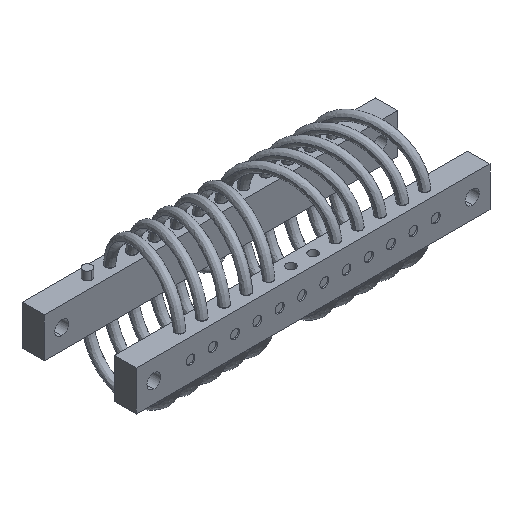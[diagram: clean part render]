
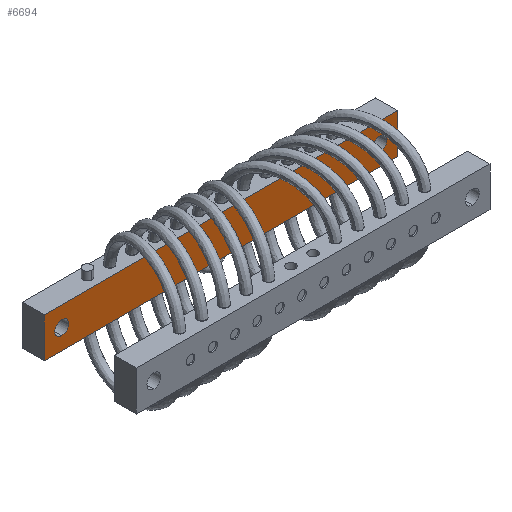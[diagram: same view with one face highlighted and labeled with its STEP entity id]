
A CAD part, isometric view. The second image highlights one B-rep face of the part: STEP entity #6694.
In plain terms, the highlighted planar face has unit normal (0, -1, 0).
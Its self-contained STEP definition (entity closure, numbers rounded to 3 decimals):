
#29 = DIRECTION ( 'NONE',  ( -1., 0., 0. ) ) ;
#92 = FACE_BOUND ( 'NONE', #20584, .T. ) ;
#379 = PLANE ( 'NONE',  #8672 ) ;
#444 = EDGE_CURVE ( 'NONE', #18787, #1543, #14312, .T. ) ;
#927 = CARTESIAN_POINT ( 'NONE',  ( -57.15, 12.6, 0. ) ) ;
#991 = DIRECTION ( 'NONE',  ( 0., 1., 0. ) ) ;
#1048 = DIRECTION ( 'NONE',  ( 0., 0., 1. ) ) ;
#1218 = DIRECTION ( 'NONE',  ( 0., 1., 0. ) ) ;
#1247 = EDGE_CURVE ( 'NONE', #2029, #4068, #7236, .T. ) ;
#1266 = VERTEX_POINT ( 'NONE', #15204 ) ;
#1348 = VERTEX_POINT ( 'NONE', #2498 ) ;
#1543 = VERTEX_POINT ( 'NONE', #19936 ) ;
#1568 = CARTESIAN_POINT ( 'NONE',  ( 57.15, 12.6, -2.5 ) ) ;
#1583 = CARTESIAN_POINT ( 'NONE',  ( 63.5, 12.6, 7.15 ) ) ;
#1640 = LINE ( 'NONE', #17075, #18252 ) ;
#1960 = CARTESIAN_POINT ( 'NONE',  ( 63.5, 12.6, -7.15 ) ) ;
#2006 = DIRECTION ( 'NONE',  ( 0., 0., 1. ) ) ;
#2029 = VERTEX_POINT ( 'NONE', #18634 ) ;
#2398 = VECTOR ( 'NONE', #2511, 1000. ) ;
#2498 = CARTESIAN_POINT ( 'NONE',  ( -63.5, 12.6, -7.15 ) ) ;
#2511 = DIRECTION ( 'NONE',  ( 0., 0., -1. ) ) ;
#2828 = AXIS2_PLACEMENT_3D ( 'NONE', #18467, #8826, #20098 ) ;
#3306 = ORIENTED_EDGE ( 'NONE', *, *, #444, .T. ) ;
#3382 = LINE ( 'NONE', #1960, #15705 ) ;
#3429 = DIRECTION ( 'NONE',  ( -1., 0., 0. ) ) ;
#3525 = ORIENTED_EDGE ( 'NONE', *, *, #20019, .F. ) ;
#4068 = VERTEX_POINT ( 'NONE', #1568 ) ;
#4376 = FACE_OUTER_BOUND ( 'NONE', #16415, .T. ) ;
#5345 = CARTESIAN_POINT ( 'NONE',  ( 63.5, 12.6, -7.15 ) ) ;
#6694 = ADVANCED_FACE ( 'NONE', ( #8651, #92, #4376 ), #379, .F. ) ;
#6758 = CIRCLE ( 'NONE', #15003, 2.5 ) ;
#7236 = CIRCLE ( 'NONE', #2828, 2.5 ) ;
#7549 = VERTEX_POINT ( 'NONE', #5345 ) ;
#8127 = EDGE_CURVE ( 'NONE', #1543, #18787, #6758, .T. ) ;
#8350 = ORIENTED_EDGE ( 'NONE', *, *, #19739, .F. ) ;
#8400 = CARTESIAN_POINT ( 'NONE',  ( 63.5, 12.6, -7.15 ) ) ;
#8415 = ORIENTED_EDGE ( 'NONE', *, *, #18367, .T. ) ;
#8651 = FACE_BOUND ( 'NONE', #13854, .T. ) ;
#8672 = AXIS2_PLACEMENT_3D ( 'NONE', #8400, #13094, #2006 ) ;
#8826 = DIRECTION ( 'NONE',  ( 0., 1., 0. ) ) ;
#9109 = CARTESIAN_POINT ( 'NONE',  ( 63.5, 12.6, 7.15 ) ) ;
#9322 = DIRECTION ( 'NONE',  ( 0., 1., 0. ) ) ;
#9367 = ORIENTED_EDGE ( 'NONE', *, *, #19459, .T. ) ;
#9817 = VERTEX_POINT ( 'NONE', #9109 ) ;
#10016 = EDGE_CURVE ( 'NONE', #4068, #2029, #17060, .T. ) ;
#10649 = DIRECTION ( 'NONE',  ( 0., 0., -1. ) ) ;
#10825 = CARTESIAN_POINT ( 'NONE',  ( 57.15, 12.6, 0. ) ) ;
#11153 = AXIS2_PLACEMENT_3D ( 'NONE', #927, #991, #1048 ) ;
#11852 = ORIENTED_EDGE ( 'NONE', *, *, #1247, .T. ) ;
#12076 = ORIENTED_EDGE ( 'NONE', *, *, #10016, .T. ) ;
#12451 = DIRECTION ( 'NONE',  ( 0., 0., 1. ) ) ;
#13094 = DIRECTION ( 'NONE',  ( 0., 1., 0. ) ) ;
#13224 = VECTOR ( 'NONE', #29, 1000. ) ;
#13854 = EDGE_LOOP ( 'NONE', ( #11852, #12076 ) ) ;
#14073 = AXIS2_PLACEMENT_3D ( 'NONE', #10825, #1218, #12451 ) ;
#14199 = LINE ( 'NONE', #18565, #2398 ) ;
#14312 = CIRCLE ( 'NONE', #11153, 2.5 ) ;
#15003 = AXIS2_PLACEMENT_3D ( 'NONE', #18990, #9322, #20613 ) ;
#15204 = CARTESIAN_POINT ( 'NONE',  ( -63.5, 12.6, 7.15 ) ) ;
#15705 = VECTOR ( 'NONE', #3429, 1000. ) ;
#16219 = CARTESIAN_POINT ( 'NONE',  ( -57.15, 12.6, 2.5 ) ) ;
#16415 = EDGE_LOOP ( 'NONE', ( #9367, #8350, #3525, #8415 ) ) ;
#17060 = CIRCLE ( 'NONE', #14073, 2.5 ) ;
#17075 = CARTESIAN_POINT ( 'NONE',  ( -63.5, 12.6, -7.15 ) ) ;
#17515 = LINE ( 'NONE', #1583, #13224 ) ;
#18252 = VECTOR ( 'NONE', #10649, 1000. ) ;
#18367 = EDGE_CURVE ( 'NONE', #9817, #1266, #17515, .T. ) ;
#18467 = CARTESIAN_POINT ( 'NONE',  ( 57.15, 12.6, 0. ) ) ;
#18565 = CARTESIAN_POINT ( 'NONE',  ( 63.5, 12.6, -7.15 ) ) ;
#18634 = CARTESIAN_POINT ( 'NONE',  ( 57.15, 12.6, 2.5 ) ) ;
#18787 = VERTEX_POINT ( 'NONE', #16219 ) ;
#18990 = CARTESIAN_POINT ( 'NONE',  ( -57.15, 12.6, 0. ) ) ;
#19307 = ORIENTED_EDGE ( 'NONE', *, *, #8127, .T. ) ;
#19459 = EDGE_CURVE ( 'NONE', #1266, #1348, #1640, .T. ) ;
#19739 = EDGE_CURVE ( 'NONE', #7549, #1348, #3382, .T. ) ;
#19936 = CARTESIAN_POINT ( 'NONE',  ( -57.15, 12.6, -2.5 ) ) ;
#20019 = EDGE_CURVE ( 'NONE', #9817, #7549, #14199, .T. ) ;
#20098 = DIRECTION ( 'NONE',  ( 0., 0., 1. ) ) ;
#20584 = EDGE_LOOP ( 'NONE', ( #3306, #19307 ) ) ;
#20613 = DIRECTION ( 'NONE',  ( 0., 0., 1. ) ) ;
